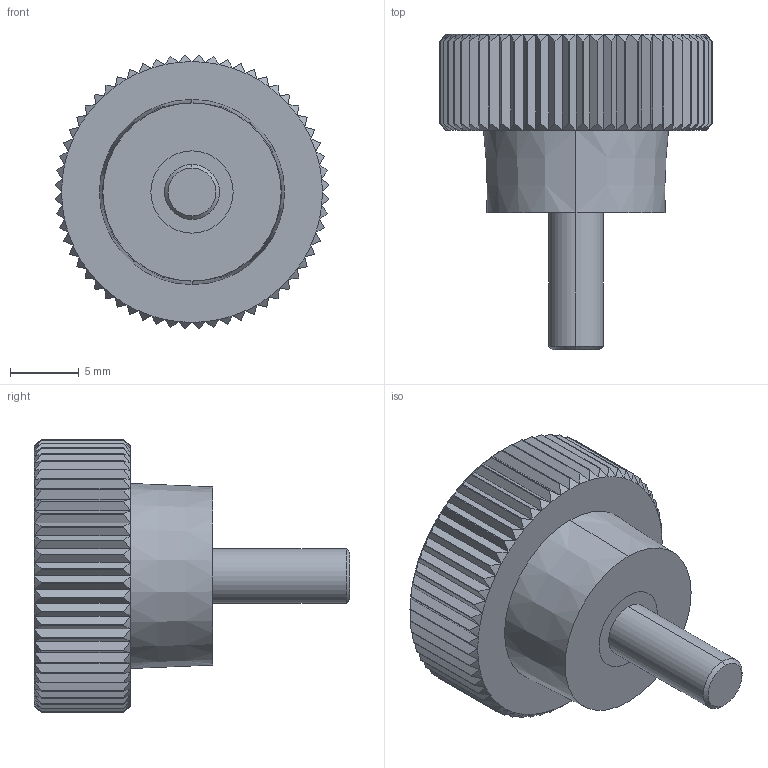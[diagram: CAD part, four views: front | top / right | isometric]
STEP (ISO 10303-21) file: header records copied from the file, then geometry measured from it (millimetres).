
FILE_DESCRIPTION (( 'STEP AP203' ), '1' );
FILE_NAME ('wn4662_20-m4x10.step', '2007-02-15T10:21:46', ( 'Magnus Fahlstrom' ), ( '' ), 'SwSTEP 2.0', 'SolidWorks 2007', '' );
FILE_SCHEMA (( 'CONFIG_CONTROL_DESIGN' ));
Length unit declared in the file: millimetre
Products named in the file (1): wn4662_20-m4x10
Bounding box: 19.98 x 23 x 19.98 mm (x, y, z)
Volume: 2976.7 mm3; surface area: 1818 mm2
Topology: 3 solids, 3 shells, 321 faces, 694 edges, 382 vertices
Faces by surface type: plane 129, cone 126, cylinder 66
Entity records: 8787 total; most frequent: CARTESIAN_POINT 2118, ORIENTED_EDGE 1388, DIRECTION 1360, EDGE_CURVE 694, AXIS2_PLACEMENT_3D 584, VERTEX_POINT 382, EDGE_LOOP 324, ADVANCED_FACE 321
